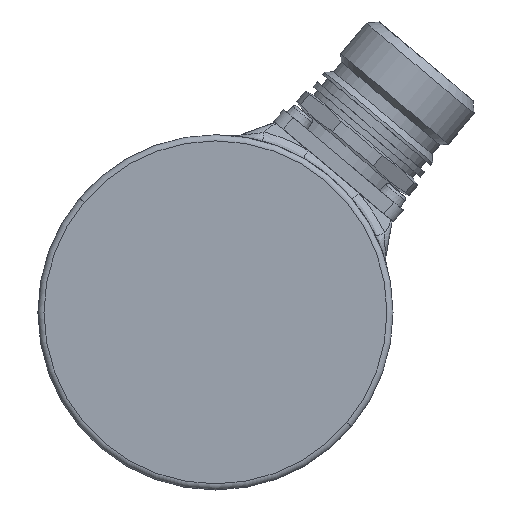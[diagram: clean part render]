
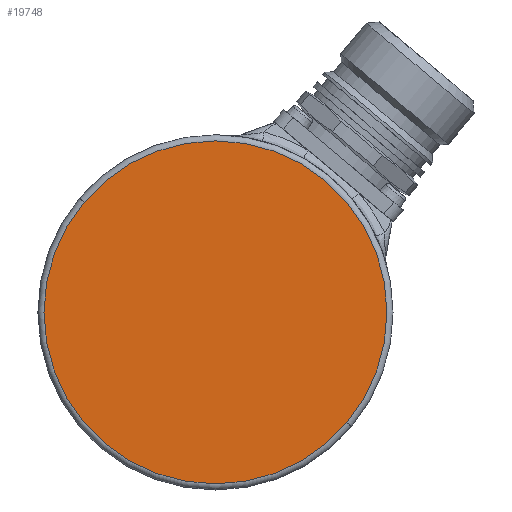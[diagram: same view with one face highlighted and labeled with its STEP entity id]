
A CAD part, left-side view. The second image highlights one B-rep face of the part: STEP entity #19748.
In plain terms, the highlighted planar face has unit normal (-1, 0, 0).
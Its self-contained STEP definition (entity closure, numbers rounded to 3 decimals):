
#12838 = CARTESIAN_POINT ( 'NONE',  ( -40., -21.449, -17.998 ) ) ;
#12865 = DIRECTION ( 'NONE',  ( 0., 0.766, 0.643 ) ) ;
#12866 = DIRECTION ( 'NONE',  ( -1., 0., 0. ) ) ;
#12867 = CARTESIAN_POINT ( 'NONE',  ( -40., 0., 0. ) ) ;
#12868 = AXIS2_PLACEMENT_3D ( 'NONE', #12867, #12866, #12865 ) ;
#12869 = CIRCLE ( 'NONE', #12868, 28. ) ;
#13008 = CARTESIAN_POINT ( 'NONE',  ( -40., 21.449, 17.998 ) ) ;
#13227 = DIRECTION ( 'NONE',  ( 0., 0.766, 0.643 ) ) ;
#13228 = DIRECTION ( 'NONE',  ( -1., 0., 0. ) ) ;
#13229 = AXIS2_PLACEMENT_3D ( 'NONE', #13234, #13228, #13227 ) ;
#13230 = CIRCLE ( 'NONE', #13229, 28. ) ;
#13231 = DIRECTION ( 'NONE',  ( 0., 0.766, 0.643 ) ) ;
#13232 = DIRECTION ( 'NONE',  ( 1., 0., 0. ) ) ;
#13233 = CARTESIAN_POINT ( 'NONE',  ( -40., 0., 0. ) ) ;
#13234 = CARTESIAN_POINT ( 'NONE',  ( -40., 0., 0. ) ) ;
#13235 = AXIS2_PLACEMENT_3D ( 'NONE', #13233, #13232, #13231 ) ;
#13236 = PLANE ( 'NONE',  #13235 ) ;
#13237 = FACE_OUTER_BOUND ( 'NONE', #19749, .T. ) ;
#19577 = VERTEX_POINT ( 'NONE', #12838 ) ;
#19593 = EDGE_CURVE ( 'NONE', #19577, #19649, #12869, .T. ) ;
#19649 = VERTEX_POINT ( 'NONE', #13008 ) ;
#19748 = ADVANCED_FACE ( 'NONE', ( #13237 ), #13236, .F. ) ;
#19749 = EDGE_LOOP ( 'NONE', ( #19750, #19752 ) ) ;
#19750 = ORIENTED_EDGE ( 'NONE', *, *, #19751, .T. ) ;
#19751 = EDGE_CURVE ( 'NONE', #19649, #19577, #13230, .T. ) ;
#19752 = ORIENTED_EDGE ( 'NONE', *, *, #19593, .T. ) ;
